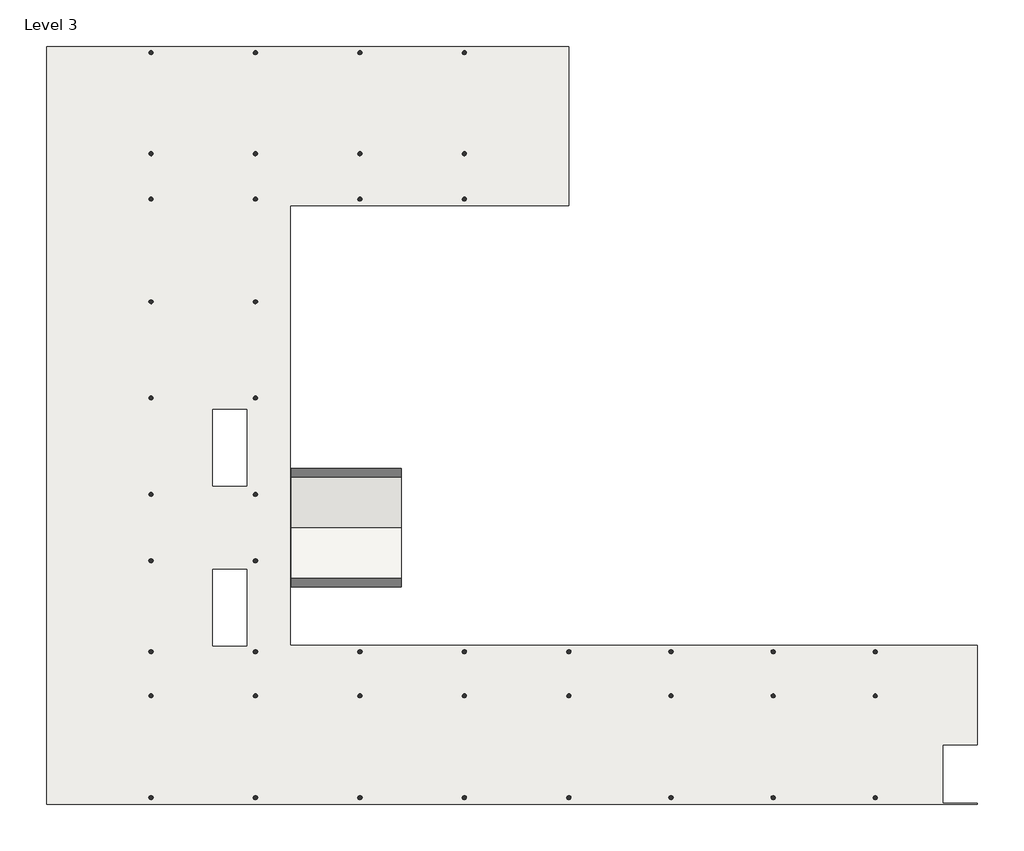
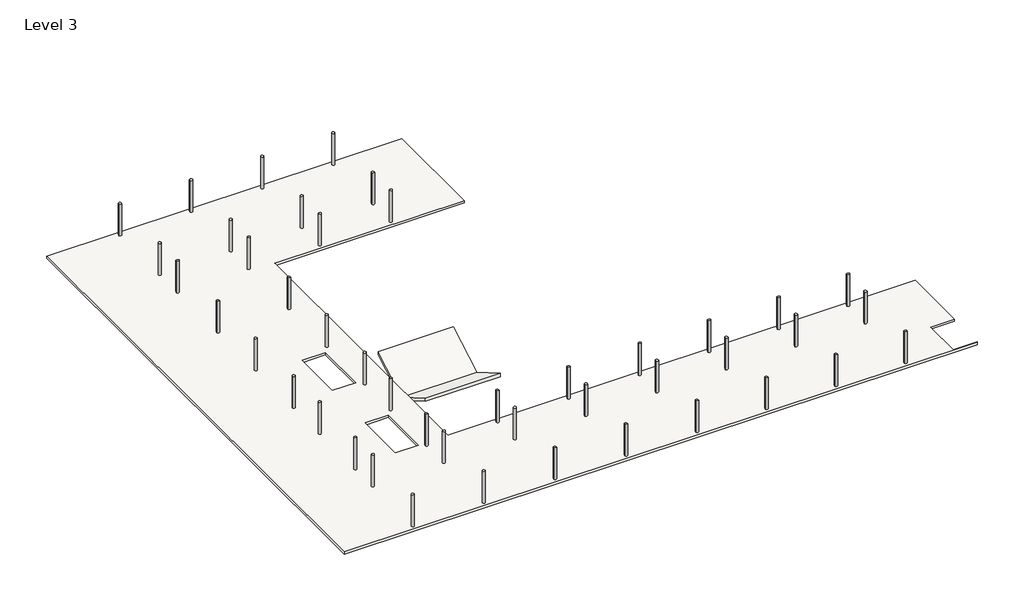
# One storey: 44 columns, 1 roof, 1 slab.
"""IFC4 building model written with IfcOpenShell, lengths in millimetres."""

from ifc_helpers import new_model, si_unit, frame, origin, place, context, project, spatial, polyline, outline, extrude, transform, mapped, element, save
from components import m_concrete_round_column_300mm_040c63dc

model = new_model("IFC4")

# Units and contexts
model_context = context("Model", 3, world=origin())
ifc_project = project(units=[si_unit("LENGTHUNIT", "METRE", prefix="MILLI")], contexts=[model_context])

# Site, building, storey
site = spatial("IfcSite", under=ifc_project)
building = spatial("IfcBuilding", under=site)
storey = spatial("IfcBuildingStorey", under=building, Name="Level 3", Elevation=7600.0)

# Columns
placement = place(None, origin())
m_concrete_round_column_300mm_shape = m_concrete_round_column_300mm_040c63dc(model_context)
element("IfcColumn", 1, ObjectType="M_Concrete-Round-Column : 300mm", at=placement, inside=storey, context=model_context, shape_type="MappedRepresentation", body=[
    mapped(m_concrete_round_column_300mm_shape, transform((-2539.0909489, 23121.5799804, 0.0), x_axis=(-1.0, 0.0, 0.0), y_axis=(0.0, -1.0, 0.0), z_axis=(0.0, 0.0, 1.0))),
])
element("IfcColumn", 2, ObjectType="M_Concrete-Round-Column : 300mm", at=placement, inside=storey, context=model_context, shape_type="MappedRepresentation", body=[
    mapped(m_concrete_round_column_300mm_shape, transform((-2539.0909489, 12506.7392059, 0.0), x_axis=(-1.0, 0.0, 0.0), y_axis=(0.0, -1.0, 0.0), z_axis=(0.0, 0.0, 1.0))),
])
element("IfcColumn", 3, ObjectType="M_Concrete-Round-Column : 300mm", at=placement, inside=storey, context=model_context, shape_type="MappedRepresentation", body=[
    mapped(m_concrete_round_column_300mm_shape, transform((-2539.0909489, 5598.6392059, 0.0), x_axis=(-1.0, 0.0, 0.0), y_axis=(0.0, -1.0, 0.0), z_axis=(0.0, 0.0, 1.0))),
])
element("IfcColumn", 4, ObjectType="M_Concrete-Round-Column : 300mm", at=placement, inside=storey, context=model_context, shape_type="MappedRepresentation", body=[
    mapped(m_concrete_round_column_300mm_shape, transform((-2539.0909489, -1309.4607941, 0.0), x_axis=(-1.0, 0.0, 0.0), y_axis=(0.0, -1.0, 0.0), z_axis=(0.0, 0.0, 1.0))),
])
element("IfcColumn", 5, ObjectType="M_Concrete-Round-Column : 300mm", at=placement, inside=storey, context=model_context, shape_type="MappedRepresentation", body=[
    mapped(m_concrete_round_column_300mm_shape, transform((-2539.0909489, -6063.8611817, 0.0), x_axis=(-1.0, 0.0, 0.0), y_axis=(0.0, -1.0, 0.0), z_axis=(0.0, 0.0, 1.0))),
])
element("IfcColumn", 6, ObjectType="M_Concrete-Round-Column : 300mm", at=placement, inside=storey, context=model_context, shape_type="MappedRepresentation", body=[
    mapped(m_concrete_round_column_300mm_shape, transform((-2539.0909489, -15754.7006057, 0.0), x_axis=(-1.0, 0.0, 0.0), y_axis=(0.0, -1.0, 0.0), z_axis=(0.0, 0.0, 1.0))),
])
element("IfcColumn", 7, ObjectType="M_Concrete-Round-Column : 300mm", at=placement, inside=storey, context=model_context, shape_type="MappedRepresentation", body=[
    mapped(m_concrete_round_column_300mm_shape, transform((-2539.0909489, 30368.5799804, 0.0), x_axis=(-1.0, 0.0, 0.0), y_axis=(0.0, -1.0, 0.0), z_axis=(0.0, 0.0, 1.0))),
])
element("IfcColumn", 8, ObjectType="M_Concrete-Round-Column : 300mm", at=placement, inside=storey, context=model_context, shape_type="MappedRepresentation", body=[
    mapped(m_concrete_round_column_300mm_shape, transform((-2539.0909489, 19864.8392059, 0.0), x_axis=(-1.0, 0.0, 0.0), y_axis=(0.0, -1.0, 0.0), z_axis=(0.0, 0.0, 1.0))),
])
element("IfcColumn", 9, ObjectType="M_Concrete-Round-Column : 300mm", at=placement, inside=storey, context=model_context, shape_type="MappedRepresentation", body=[
    mapped(m_concrete_round_column_300mm_shape, transform((-2539.0909489, -12582.3615692, 0.0), x_axis=(-1.0, 0.0, 0.0), y_axis=(0.0, -1.0, 0.0), z_axis=(0.0, 0.0, 1.0))),
])
element("IfcColumn", 10, ObjectType="M_Concrete-Round-Column : 300mm", at=placement, inside=storey, context=model_context, shape_type="MappedRepresentation", body=[
    mapped(m_concrete_round_column_300mm_shape, transform((-2539.0909489, -23060.7006057, 0.0), x_axis=(-1.0, 0.0, 0.0), y_axis=(0.0, -1.0, 0.0), z_axis=(0.0, 0.0, 1.0))),
])
element("IfcColumn", 11, ObjectType="M_Concrete-Round-Column : 300mm", at=placement, inside=storey, context=model_context, shape_type="MappedRepresentation", body=[
    mapped(m_concrete_round_column_300mm_shape, transform((4948.6567657, 23121.5799804, 0.0), x_axis=(-1.0, 0.0, 0.0), y_axis=(0.0, -1.0, 0.0), z_axis=(0.0, 0.0, 1.0))),
])
element("IfcColumn", 12, ObjectType="M_Concrete-Round-Column : 300mm", at=placement, inside=storey, context=model_context, shape_type="MappedRepresentation", body=[
    mapped(m_concrete_round_column_300mm_shape, transform((4948.6567657, 12506.7392059, 0.0), x_axis=(-1.0, 0.0, 0.0), y_axis=(0.0, -1.0, 0.0), z_axis=(0.0, 0.0, 1.0))),
])
element("IfcColumn", 13, ObjectType="M_Concrete-Round-Column : 300mm", at=placement, inside=storey, context=model_context, shape_type="MappedRepresentation", body=[
    mapped(m_concrete_round_column_300mm_shape, transform((4948.6567657, 5598.6392059, 0.0), x_axis=(-1.0, 0.0, 0.0), y_axis=(0.0, -1.0, 0.0), z_axis=(0.0, 0.0, 1.0))),
])
element("IfcColumn", 14, ObjectType="M_Concrete-Round-Column : 300mm", at=placement, inside=storey, context=model_context, shape_type="MappedRepresentation", body=[
    mapped(m_concrete_round_column_300mm_shape, transform((4948.6567657, -1309.4607941, 0.0), x_axis=(-1.0, 0.0, 0.0), y_axis=(0.0, -1.0, 0.0), z_axis=(0.0, 0.0, 1.0))),
])
element("IfcColumn", 15, ObjectType="M_Concrete-Round-Column : 300mm", at=placement, inside=storey, context=model_context, shape_type="MappedRepresentation", body=[
    mapped(m_concrete_round_column_300mm_shape, transform((4948.6567657, -6063.8611817, 0.0), x_axis=(-1.0, 0.0, 0.0), y_axis=(0.0, -1.0, 0.0), z_axis=(0.0, 0.0, 1.0))),
])
element("IfcColumn", 16, ObjectType="M_Concrete-Round-Column : 300mm", at=placement, inside=storey, context=model_context, shape_type="MappedRepresentation", body=[
    mapped(m_concrete_round_column_300mm_shape, transform((4948.6567657, -15754.7006057, 0.0), x_axis=(-1.0, 0.0, 0.0), y_axis=(0.0, -1.0, 0.0), z_axis=(0.0, 0.0, 1.0))),
])
element("IfcColumn", 17, ObjectType="M_Concrete-Round-Column : 300mm", at=placement, inside=storey, context=model_context, shape_type="MappedRepresentation", body=[
    mapped(m_concrete_round_column_300mm_shape, transform((4948.6567657, 30368.5799804, 0.0), x_axis=(-1.0, 0.0, 0.0), y_axis=(0.0, -1.0, 0.0), z_axis=(0.0, 0.0, 1.0))),
])
element("IfcColumn", 18, ObjectType="M_Concrete-Round-Column : 300mm", at=placement, inside=storey, context=model_context, shape_type="MappedRepresentation", body=[
    mapped(m_concrete_round_column_300mm_shape, transform((4948.6567657, 19864.8392059, 0.0), x_axis=(-1.0, 0.0, 0.0), y_axis=(0.0, -1.0, 0.0), z_axis=(0.0, 0.0, 1.0))),
])
element("IfcColumn", 19, ObjectType="M_Concrete-Round-Column : 300mm", at=placement, inside=storey, context=model_context, shape_type="MappedRepresentation", body=[
    mapped(m_concrete_round_column_300mm_shape, transform((4948.6567657, -12582.3615692, 0.0), x_axis=(-1.0, 0.0, 0.0), y_axis=(0.0, -1.0, 0.0), z_axis=(0.0, 0.0, 1.0))),
])
element("IfcColumn", 20, ObjectType="M_Concrete-Round-Column : 300mm", at=placement, inside=storey, context=model_context, shape_type="MappedRepresentation", body=[
    mapped(m_concrete_round_column_300mm_shape, transform((4948.6567657, -23060.7006057, 0.0), x_axis=(-1.0, 0.0, 0.0), y_axis=(0.0, -1.0, 0.0), z_axis=(0.0, 0.0, 1.0))),
])
element("IfcColumn", 21, ObjectType="M_Concrete-Round-Column : 300mm", at=placement, inside=storey, context=model_context, shape_type="MappedRepresentation", body=[
    mapped(m_concrete_round_column_300mm_shape, transform((12436.4044804, 23121.5799804, 0.0), x_axis=(-1.0, 0.0, 0.0), y_axis=(0.0, -1.0, 0.0), z_axis=(0.0, 0.0, 1.0))),
])
element("IfcColumn", 22, ObjectType="M_Concrete-Round-Column : 300mm", at=placement, inside=storey, context=model_context, shape_type="MappedRepresentation", body=[
    mapped(m_concrete_round_column_300mm_shape, transform((12436.4044804, -15754.7006057, 0.0), x_axis=(-1.0, 0.0, 0.0), y_axis=(0.0, -1.0, 0.0), z_axis=(0.0, 0.0, 1.0))),
])
element("IfcColumn", 23, ObjectType="M_Concrete-Round-Column : 300mm", at=placement, inside=storey, context=model_context, shape_type="MappedRepresentation", body=[
    mapped(m_concrete_round_column_300mm_shape, transform((12436.4044804, 30368.5799804, 0.0), x_axis=(-1.0, 0.0, 0.0), y_axis=(0.0, -1.0, 0.0), z_axis=(0.0, 0.0, 1.0))),
])
element("IfcColumn", 24, ObjectType="M_Concrete-Round-Column : 300mm", at=placement, inside=storey, context=model_context, shape_type="MappedRepresentation", body=[
    mapped(m_concrete_round_column_300mm_shape, transform((12436.4044804, 19864.8392059, 0.0), x_axis=(-1.0, 0.0, 0.0), y_axis=(0.0, -1.0, 0.0), z_axis=(0.0, 0.0, 1.0))),
])
element("IfcColumn", 25, ObjectType="M_Concrete-Round-Column : 300mm", at=placement, inside=storey, context=model_context, shape_type="MappedRepresentation", body=[
    mapped(m_concrete_round_column_300mm_shape, transform((12436.4044804, -12582.3615692, 0.0), x_axis=(-1.0, 0.0, 0.0), y_axis=(0.0, -1.0, 0.0), z_axis=(0.0, 0.0, 1.0))),
])
element("IfcColumn", 26, ObjectType="M_Concrete-Round-Column : 300mm", at=placement, inside=storey, context=model_context, shape_type="MappedRepresentation", body=[
    mapped(m_concrete_round_column_300mm_shape, transform((12436.4044804, -23060.7006057, 0.0), x_axis=(-1.0, 0.0, 0.0), y_axis=(0.0, -1.0, 0.0), z_axis=(0.0, 0.0, 1.0))),
])
element("IfcColumn", 27, ObjectType="M_Concrete-Round-Column : 300mm", at=placement, inside=storey, context=model_context, shape_type="MappedRepresentation", body=[
    mapped(m_concrete_round_column_300mm_shape, transform((19924.152195, 23121.5799804, 0.0), x_axis=(-1.0, 0.0, 0.0), y_axis=(0.0, -1.0, 0.0), z_axis=(0.0, 0.0, 1.0))),
])
element("IfcColumn", 28, ObjectType="M_Concrete-Round-Column : 300mm", at=placement, inside=storey, context=model_context, shape_type="MappedRepresentation", body=[
    mapped(m_concrete_round_column_300mm_shape, transform((19924.152195, -15754.7006057, 0.0), x_axis=(-1.0, 0.0, 0.0), y_axis=(0.0, -1.0, 0.0), z_axis=(0.0, 0.0, 1.0))),
])
element("IfcColumn", 29, ObjectType="M_Concrete-Round-Column : 300mm", at=placement, inside=storey, context=model_context, shape_type="MappedRepresentation", body=[
    mapped(m_concrete_round_column_300mm_shape, transform((19924.152195, 30368.5799804, 0.0), x_axis=(-1.0, 0.0, 0.0), y_axis=(0.0, -1.0, 0.0), z_axis=(0.0, 0.0, 1.0))),
])
element("IfcColumn", 30, ObjectType="M_Concrete-Round-Column : 300mm", at=placement, inside=storey, context=model_context, shape_type="MappedRepresentation", body=[
    mapped(m_concrete_round_column_300mm_shape, transform((19924.152195, 19864.8392059, 0.0), x_axis=(-1.0, 0.0, 0.0), y_axis=(0.0, -1.0, 0.0), z_axis=(0.0, 0.0, 1.0))),
])
element("IfcColumn", 31, ObjectType="M_Concrete-Round-Column : 300mm", at=placement, inside=storey, context=model_context, shape_type="MappedRepresentation", body=[
    mapped(m_concrete_round_column_300mm_shape, transform((19924.152195, -12582.3615692, 0.0), x_axis=(-1.0, 0.0, 0.0), y_axis=(0.0, -1.0, 0.0), z_axis=(0.0, 0.0, 1.0))),
])
element("IfcColumn", 32, ObjectType="M_Concrete-Round-Column : 300mm", at=placement, inside=storey, context=model_context, shape_type="MappedRepresentation", body=[
    mapped(m_concrete_round_column_300mm_shape, transform((19924.152195, -23060.7006057, 0.0), x_axis=(-1.0, 0.0, 0.0), y_axis=(0.0, -1.0, 0.0), z_axis=(0.0, 0.0, 1.0))),
])
element("IfcColumn", 33, ObjectType="M_Concrete-Round-Column : 300mm", at=placement, inside=storey, context=model_context, shape_type="MappedRepresentation", body=[
    mapped(m_concrete_round_column_300mm_shape, transform((27411.8999097, -15754.7006057, 0.0), x_axis=(-1.0, 0.0, 0.0), y_axis=(0.0, -1.0, 0.0), z_axis=(0.0, 0.0, 1.0))),
])
element("IfcColumn", 34, ObjectType="M_Concrete-Round-Column : 300mm", at=placement, inside=storey, context=model_context, shape_type="MappedRepresentation", body=[
    mapped(m_concrete_round_column_300mm_shape, transform((27411.8999097, -12582.3615692, 0.0), x_axis=(-1.0, 0.0, 0.0), y_axis=(0.0, -1.0, 0.0), z_axis=(0.0, 0.0, 1.0))),
])
element("IfcColumn", 35, ObjectType="M_Concrete-Round-Column : 300mm", at=placement, inside=storey, context=model_context, shape_type="MappedRepresentation", body=[
    mapped(m_concrete_round_column_300mm_shape, transform((27411.8999097, -23060.7006057, 0.0), x_axis=(-1.0, 0.0, 0.0), y_axis=(0.0, -1.0, 0.0), z_axis=(0.0, 0.0, 1.0))),
])
element("IfcColumn", 36, ObjectType="M_Concrete-Round-Column : 300mm", at=placement, inside=storey, context=model_context, shape_type="MappedRepresentation", body=[
    mapped(m_concrete_round_column_300mm_shape, transform((34733.7042668, -15754.7006057, 0.0), x_axis=(-1.0, 0.0, 0.0), y_axis=(0.0, -1.0, 0.0), z_axis=(0.0, 0.0, 1.0))),
])
element("IfcColumn", 37, ObjectType="M_Concrete-Round-Column : 300mm", at=placement, inside=storey, context=model_context, shape_type="MappedRepresentation", body=[
    mapped(m_concrete_round_column_300mm_shape, transform((34733.7042668, -12582.3615692, 0.0), x_axis=(-1.0, 0.0, 0.0), y_axis=(0.0, -1.0, 0.0), z_axis=(0.0, 0.0, 1.0))),
])
element("IfcColumn", 38, ObjectType="M_Concrete-Round-Column : 300mm", at=placement, inside=storey, context=model_context, shape_type="MappedRepresentation", body=[
    mapped(m_concrete_round_column_300mm_shape, transform((34733.7042668, -23060.7006057, 0.0), x_axis=(-1.0, 0.0, 0.0), y_axis=(0.0, -1.0, 0.0), z_axis=(0.0, 0.0, 1.0))),
])
element("IfcColumn", 39, ObjectType="M_Concrete-Round-Column : 300mm", at=placement, inside=storey, context=model_context, shape_type="MappedRepresentation", body=[
    mapped(m_concrete_round_column_300mm_shape, transform((42055.5086239, -15754.7006057, 0.0), x_axis=(-1.0, 0.0, 0.0), y_axis=(0.0, -1.0, 0.0), z_axis=(0.0, 0.0, 1.0))),
])
element("IfcColumn", 40, ObjectType="M_Concrete-Round-Column : 300mm", at=placement, inside=storey, context=model_context, shape_type="MappedRepresentation", body=[
    mapped(m_concrete_round_column_300mm_shape, transform((42055.5086239, -12582.3615692, 0.0), x_axis=(-1.0, 0.0, 0.0), y_axis=(0.0, -1.0, 0.0), z_axis=(0.0, 0.0, 1.0))),
])
element("IfcColumn", 41, ObjectType="M_Concrete-Round-Column : 300mm", at=placement, inside=storey, context=model_context, shape_type="MappedRepresentation", body=[
    mapped(m_concrete_round_column_300mm_shape, transform((42055.5086239, -23060.7006057, 0.0), x_axis=(-1.0, 0.0, 0.0), y_axis=(0.0, -1.0, 0.0), z_axis=(0.0, 0.0, 1.0))),
])
element("IfcColumn", 42, ObjectType="M_Concrete-Round-Column : 300mm", at=placement, inside=storey, context=model_context, shape_type="MappedRepresentation", body=[
    mapped(m_concrete_round_column_300mm_shape, transform((49377.3129811, -15754.7006057, 0.0), x_axis=(-1.0, 0.0, 0.0), y_axis=(0.0, -1.0, 0.0), z_axis=(0.0, 0.0, 1.0))),
])
element("IfcColumn", 43, ObjectType="M_Concrete-Round-Column : 300mm", at=placement, inside=storey, context=model_context, shape_type="MappedRepresentation", body=[
    mapped(m_concrete_round_column_300mm_shape, transform((49377.3129811, -12582.3615692, 0.0), x_axis=(-1.0, 0.0, 0.0), y_axis=(0.0, -1.0, 0.0), z_axis=(0.0, 0.0, 1.0))),
])
element("IfcColumn", 44, ObjectType="M_Concrete-Round-Column : 300mm", at=placement, inside=storey, context=model_context, shape_type="MappedRepresentation", body=[
    mapped(m_concrete_round_column_300mm_shape, transform((49377.3129811, -23060.7006057, 0.0), x_axis=(-1.0, 0.0, 0.0), y_axis=(0.0, -1.0, 0.0), z_axis=(0.0, 0.0, 1.0))),
])

# Roof
element("IfcRoof", 45, ObjectType="Generic Roof - 300mm", at=placement, inside=storey, context=model_context, shape_type="SweptSolid", body=[
    extrude(outline(polyline([(-7968.8611817, 9166.4101615), (-3686.6609879, 6694.0807269), (595.5392059, 9166.4101615), (595.5392059, 8820.0), (-3686.6609879, 6347.6705654), (-7968.8611817, 8820.0), (-7968.8611817, 9166.4101615)])), frame((7497.0010724, 0.0, 0.0), z_axis=(1.0, 0.0, 0.0), x_axis=(0.0, 1.0, 0.0)), (0.0, 0.0, 1.0), 7897.0891327),
])

# Slab
element("IfcSlab", 46, ObjectType="250mm Concrete", at=placement, inside=storey, context=model_context, shape_type="SweptSolid", body=[
    extrude(outline(polyline([(27411.8999097, 30818.5799804), (27411.8999097, 19414.8392059), (7447.5010724, 19414.8392059), (7447.5010724, -12132.3615692), (56699.1173382, -12132.3615692), (56699.1173382, -19265.7006057), (54199.1173382, -19265.7006057), (54199.1173382, -23440.7006057), (56699.1173382, -23440.7006057), (56699.1173382, -23510.7006057), (-10026.8386635, -23510.7006057), (-10026.8386635, 30818.5799804), (27411.8999097, 30818.5799804)]), holes=[polyline([(1898.6567657, -699.4607941), (4338.6567657, -699.4607941), (4338.6567657, 4800.5392059), (1898.6567657, 4800.5392059), (1898.6567657, -699.4607941)]), polyline([(1898.6567657, -6673.8611817), (1898.6567657, -12173.8611817), (4338.6567657, -12173.8611817), (4338.6567657, -6673.8611817), (1898.6567657, -6673.8611817)])]), frame((0.0, 0.0, 7350.0), z_axis=(0.0, 0.0, 1.0), x_axis=(1.0, 0.0, 0.0)), (0.0, 0.0, 1.0), 250.0),
])

save(model, "model.ifc")
